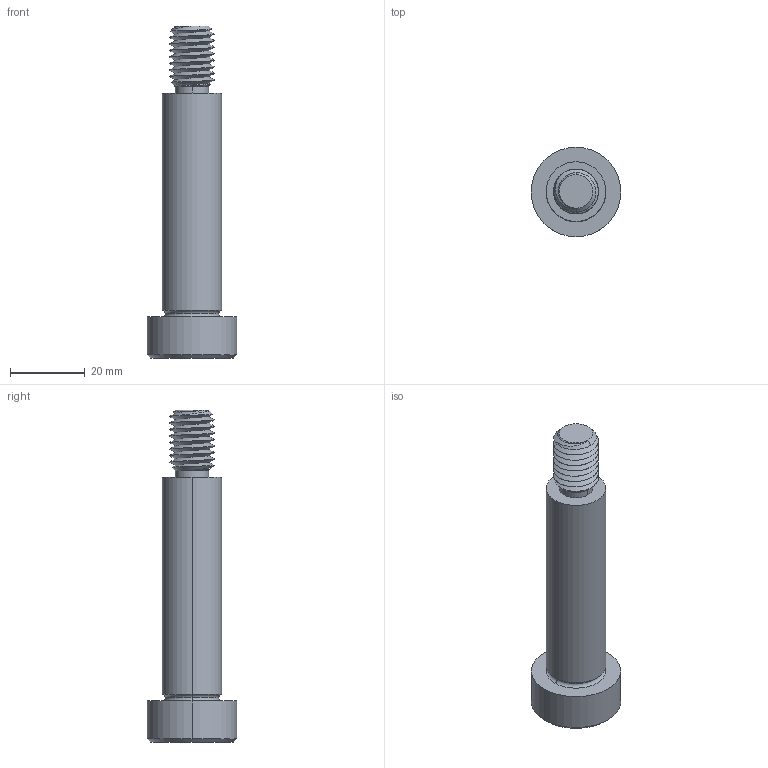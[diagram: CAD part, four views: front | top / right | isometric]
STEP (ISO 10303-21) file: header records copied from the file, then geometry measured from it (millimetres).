
FILE_DESCRIPTION (( 'STEP AP203' ), '1' );
FILE_NAME ('P0130.160-060-B2.step', '2021-11-09T22:16:46', ( '' ), ( '' ), 'SwSTEP 2.0', 'SolidWorks 2019', '' );
FILE_SCHEMA (( 'CONFIG_CONTROL_DESIGN' ));
Length unit declared in the file: millimetre
Products named in the file (1): P0130.160-060-B2
Bounding box: 24 x 24 x 89 mm (x, y, z)
Volume: 17968.7 mm3; surface area: 6059.1 mm2
Topology: 1 solids, 1 shells, 59 faces, 139 edges, 83 vertices
Faces by surface type: cylinder 22, plane 16, cone 15, torus 4, bspline 2
Entity records: 5164 total; most frequent: CARTESIAN_POINT 3839, ORIENTED_EDGE 274, DIRECTION 244, EDGE_CURVE 137, AXIS2_PLACEMENT_3D 98, VERTEX_POINT 83, EDGE_LOOP 62, FACE_OUTER_BOUND 59
